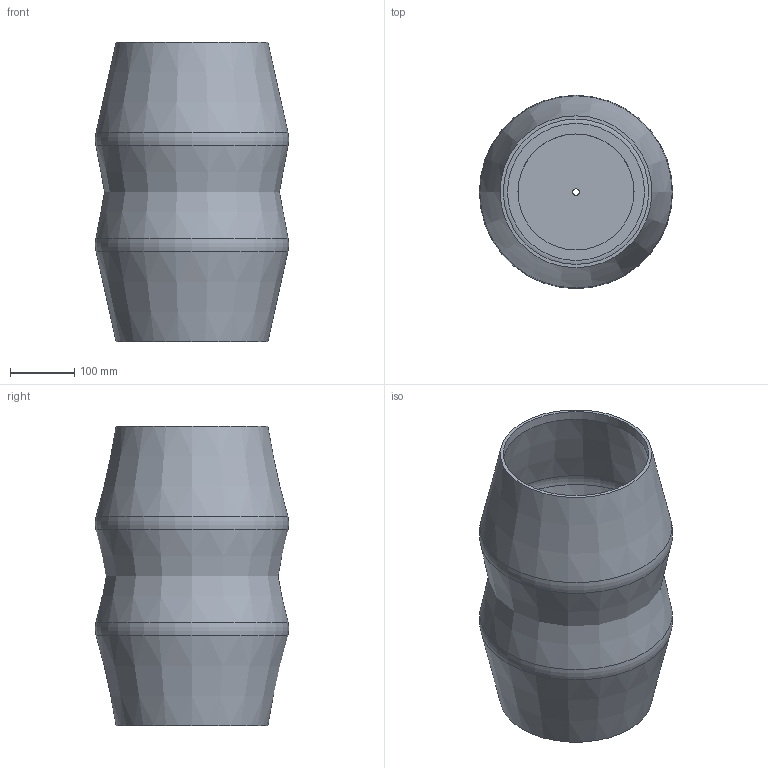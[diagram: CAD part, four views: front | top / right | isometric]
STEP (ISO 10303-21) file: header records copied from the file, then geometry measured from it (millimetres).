
FILE_DESCRIPTION( ( 'STEP AP203' ), '1' );
FILE_NAME( '//srvbf/BF Disegni/ROCCADRIA LUCA/PAGODA/PAGODA-P Piantana 3D.stp', '2020-10-15T12:30:55', ( ' ' ), ( ' ' ), 'XStep 1.0', ' ', ' ' );
FILE_SCHEMA( ( 'CONFIG_CONTROL_DESIGN) ( )' ) );
Length unit declared in the file: metre
Products named in the file (3): Assem1; 1; 2
Bounding box: 299.87 x 299.87 x 464.98 mm (x, y, z)
Volume: 4399606.6 mm3; surface area: 1432527.3 mm2
Topology: 4 solids, 4 shells, 52 faces, 94 edges, 58 vertices
Faces by surface type: cylinder 16, plane 16, torus 12, cone 8
Full cylindrical faces by diameter (mm): 5 x6, 10 x4, 180 x2, 225.569 x2, 250 x2
Entity records: 826 total; most frequent: CARTESIAN_POINT 231, DIRECTION 108, AXIS2_PLACEMENT_3D 54, EDGE_LOOP 54, ORIENTED_EDGE 54, FACE_OUTER_BOUND 40, EDGE_CURVE 27, VERTEX_POINT 27
